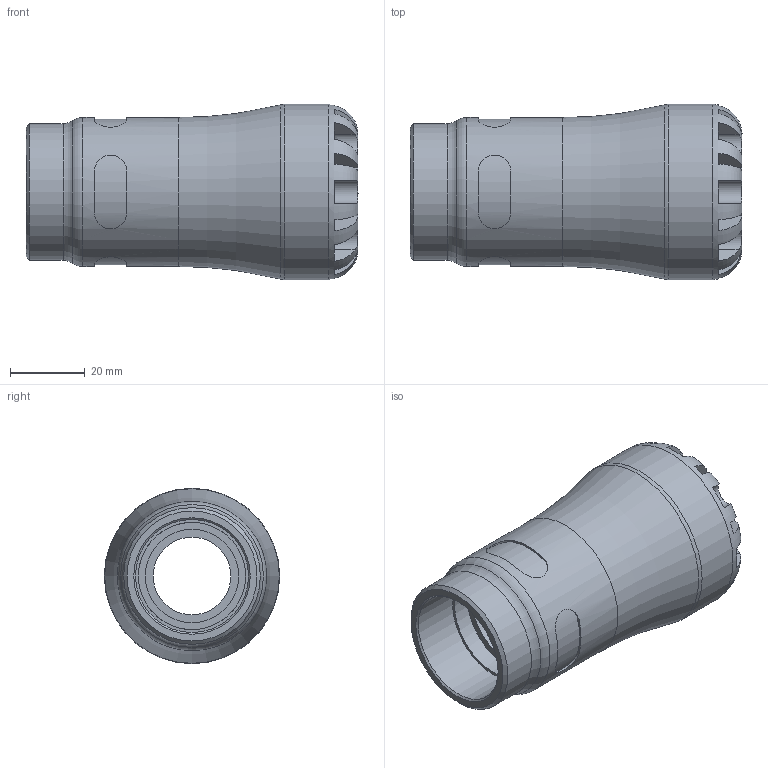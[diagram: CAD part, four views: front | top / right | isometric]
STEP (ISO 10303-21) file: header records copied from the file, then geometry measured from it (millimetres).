
FILE_DESCRIPTION(/* description */ ('PLASSON FEMALE INTEGRAL BRASS THREAD 25X1" G SERIES 1'),/* implementation_level */ '2;1');
FILE_NAME(/* name */ 'C:\Dropbox\KIMPROJECTS-Inventor\99-16-3568-Processing\1073G\1073G0025010.ipt.stp',/* time_stamp */ '2017-01-22T11:38:00+02:00',/* author */ ('KIM'),/* organization */ (''),/* preprocessor_version */ 'ST-DEVELOPER v15.6',/* originating_system */ 'Autodesk Inventor 2015',/* authorisation */ '');
FILE_SCHEMA (('AUTOMOTIVE_DESIGN { 1 0 10303 214 3 1 1 }'));
Length unit declared in the file: millimetre
Products named in the file (1): 1073G0025010
Bounding box: 89 x 47 x 47 mm (x, y, z)
Volume: 71738 mm3; surface area: 22030.3 mm2
Topology: 1 solids, 1 shells, 108 faces, 263 edges, 165 vertices
Faces by surface type: plane 63, cylinder 37, torus 5, cone 3
Full cylindrical faces by diameter (mm): 20.833 x1, 25 x2, 28.776 x2, 30.291 x1, 36.66 x1, 39.95 x1, 47 x1
Entity records: 3832 total; most frequent: CARTESIAN_POINT 1429, DIRECTION 488, ORIENTED_EDGE 478, EDGE_CURVE 239, AXIS2_PLACEMENT_3D 204, VERTEX_POINT 159, EDGE_LOOP 136, FACE_OUTER_BOUND 108
